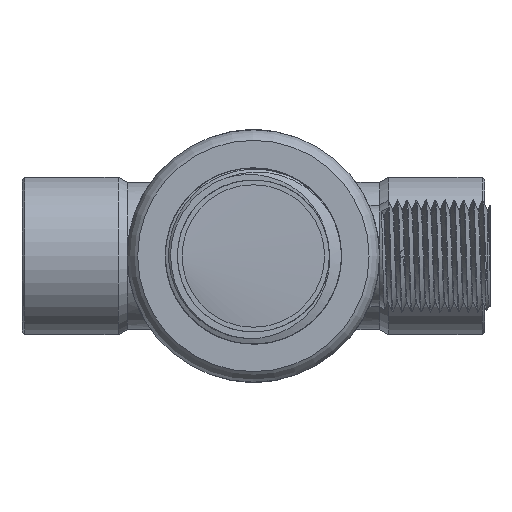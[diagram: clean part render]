
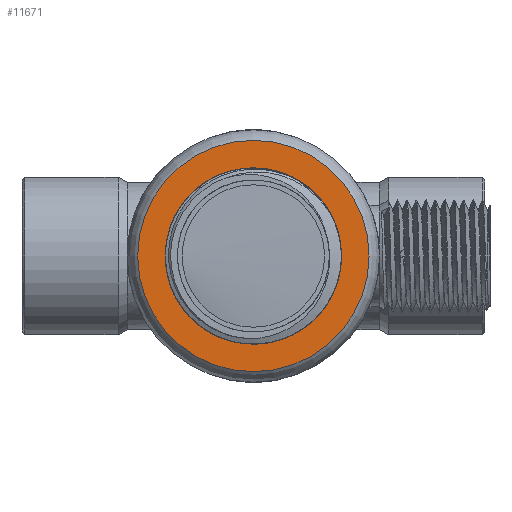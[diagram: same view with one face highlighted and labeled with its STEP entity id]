
A CAD part, left-side view. The second image highlights one B-rep face of the part: STEP entity #11671.
In plain terms, the highlighted planar face has unit normal (-1, 0, 0).
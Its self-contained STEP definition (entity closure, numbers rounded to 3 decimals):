
#208=PLANE('',#12486);
#378=FACE_BOUND('',#1944,.T.);
#384=CIRCLE('',#11732,16.75);
#385=CIRCLE('',#11733,16.75);
#478=CIRCLE('',#12124,22.);
#479=CIRCLE('',#12125,22.);
#1239=FACE_OUTER_BOUND('',#1943,.T.);
#1943=EDGE_LOOP('',(#10657,#10658));
#1944=EDGE_LOOP('',(#10659,#10660));
#4279=VERTEX_POINT('',#15938);
#4280=VERTEX_POINT('',#15940);
#4850=VERTEX_POINT('',#37797);
#4851=VERTEX_POINT('',#37799);
#5465=EDGE_CURVE('',#4279,#4280,#384,.T.);
#5466=EDGE_CURVE('',#4280,#4279,#385,.T.);
#6328=EDGE_CURVE('',#4851,#4850,#478,.T.);
#6329=EDGE_CURVE('',#4850,#4851,#479,.T.);
#10657=ORIENTED_EDGE('',*,*,#6328,.T.);
#10658=ORIENTED_EDGE('',*,*,#6329,.T.);
#10659=ORIENTED_EDGE('',*,*,#5466,.F.);
#10660=ORIENTED_EDGE('',*,*,#5465,.F.);
#11671=ADVANCED_FACE('',(#1239,#378),#208,.T.);
#11732=AXIS2_PLACEMENT_3D('',#15941,#12622,#12623);
#11733=AXIS2_PLACEMENT_3D('',#15942,#12624,#12625);
#12124=AXIS2_PLACEMENT_3D('',#37800,#13664,#13665);
#12125=AXIS2_PLACEMENT_3D('',#37801,#13666,#13667);
#12486=AXIS2_PLACEMENT_3D('',#52184,#14764,#14765);
#12622=DIRECTION('center_axis',(-1.,0.,0.));
#12623=DIRECTION('ref_axis',(0.,0.,1.));
#12624=DIRECTION('center_axis',(-1.,0.,0.));
#12625=DIRECTION('ref_axis',(0.,0.,1.));
#13664=DIRECTION('center_axis',(-1.,0.,0.));
#13665=DIRECTION('ref_axis',(0.,0.,1.));
#13666=DIRECTION('center_axis',(-1.,0.,0.));
#13667=DIRECTION('ref_axis',(0.,0.,1.));
#14764=DIRECTION('center_axis',(-1.,0.,0.));
#14765=DIRECTION('ref_axis',(0.,0.,1.));
#15938=CARTESIAN_POINT('',(-352.5,16.75,0.));
#15940=CARTESIAN_POINT('',(-352.5,-16.75,0.));
#15941=CARTESIAN_POINT('Origin',(-352.5,0.,
0.));
#15942=CARTESIAN_POINT('Origin',(-352.5,0.,
0.));
#37797=CARTESIAN_POINT('',(-352.5,0.,22.));
#37799=CARTESIAN_POINT('',(-352.5,-22.,0.));
#37800=CARTESIAN_POINT('Origin',(-352.5,0.,
0.));
#37801=CARTESIAN_POINT('Origin',(-352.5,0.,
0.));
#52184=CARTESIAN_POINT('Origin',(-352.5,-16.75,0.));
